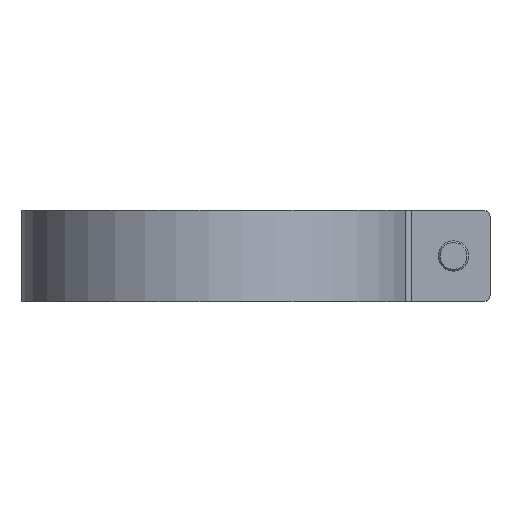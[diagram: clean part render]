
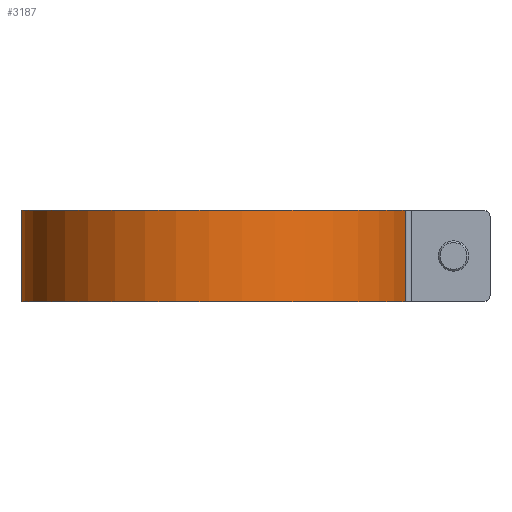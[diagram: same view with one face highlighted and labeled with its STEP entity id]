
A CAD part, front view. The second image highlights one B-rep face of the part: STEP entity #3187.
In plain terms, the highlighted cylindrical face has radius 32 mm (diameter 64 mm), a partial arc.
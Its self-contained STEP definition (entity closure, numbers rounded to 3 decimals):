
#449 = ORIENTED_EDGE ( 'NONE', *, *, #8991, .T. ) ;
#2098 = EDGE_CURVE ( 'NONE', #6629, #3719, #7569, .T. ) ;
#2185 = EDGE_CURVE ( 'NONE', #16841, #16878, #9968, .T. ) ;
#2439 = CYLINDRICAL_SURFACE ( 'NONE', #11034, 32. ) ;
#3187 = ADVANCED_FACE ( 'NONE', ( #3330 ), #2439, .T. ) ;
#3330 = FACE_OUTER_BOUND ( 'NONE', #10798, .T. ) ;
#3446 = AXIS2_PLACEMENT_3D ( 'NONE', #4934, #14785, #6342 ) ;
#3719 = VERTEX_POINT ( 'NONE', #17600 ) ;
#4272 = VECTOR ( 'NONE', #10415, 1000. ) ;
#4934 = CARTESIAN_POINT ( 'NONE',  ( 0., 0., 0. ) ) ;
#6292 = ORIENTED_EDGE ( 'NONE', *, *, #12976, .F. ) ;
#6342 = DIRECTION ( 'NONE',  ( 1., 0., 0. ) ) ;
#6408 = CARTESIAN_POINT ( 'NONE',  ( -32., 0., 15. ) ) ;
#6430 = DIRECTION ( 'NONE',  ( 0., 0., -1. ) ) ;
#6629 = VERTEX_POINT ( 'NONE', #18290 ) ;
#7569 = LINE ( 'NONE', #9024, #4272 ) ;
#7922 = CARTESIAN_POINT ( 'NONE',  ( 0., 0., 15. ) ) ;
#8329 = DIRECTION ( 'NONE',  ( 0., 0., 1. ) ) ;
#8991 = EDGE_CURVE ( 'NONE', #16878, #6629, #14487, .T. ) ;
#9024 = CARTESIAN_POINT ( 'NONE',  ( 31.045, -7.758, 15. ) ) ;
#9329 = DIRECTION ( 'NONE',  ( -1., 0., 0. ) ) ;
#9534 = VECTOR ( 'NONE', #6430, 1000. ) ;
#9856 = AXIS2_PLACEMENT_3D ( 'NONE', #16783, #8329, #18196 ) ;
#9951 = ORIENTED_EDGE ( 'NONE', *, *, #2098, .T. ) ;
#9968 = LINE ( 'NONE', #12031, #9534 ) ;
#10415 = DIRECTION ( 'NONE',  ( 0., 0., 1. ) ) ;
#10798 = EDGE_LOOP ( 'NONE', ( #6292, #14280, #449, #9951 ) ) ;
#11034 = AXIS2_PLACEMENT_3D ( 'NONE', #7922, #16368, #9329 ) ;
#11664 = CIRCLE ( 'NONE', #9856, 32. ) ;
#12031 = CARTESIAN_POINT ( 'NONE',  ( -32., 0., 15. ) ) ;
#12113 = CARTESIAN_POINT ( 'NONE',  ( -32., 0., 0. ) ) ;
#12976 = EDGE_CURVE ( 'NONE', #16841, #3719, #11664, .T. ) ;
#14280 = ORIENTED_EDGE ( 'NONE', *, *, #2185, .T. ) ;
#14487 = CIRCLE ( 'NONE', #3446, 32. ) ;
#14785 = DIRECTION ( 'NONE',  ( 0., 0., 1. ) ) ;
#16368 = DIRECTION ( 'NONE',  ( 0., 0., -1. ) ) ;
#16783 = CARTESIAN_POINT ( 'NONE',  ( 0., 0., 15. ) ) ;
#16841 = VERTEX_POINT ( 'NONE', #6408 ) ;
#16878 = VERTEX_POINT ( 'NONE', #12113 ) ;
#17600 = CARTESIAN_POINT ( 'NONE',  ( 31.045, -7.758, 15. ) ) ;
#18196 = DIRECTION ( 'NONE',  ( 1., 0., 0. ) ) ;
#18290 = CARTESIAN_POINT ( 'NONE',  ( 31.045, -7.758, 0. ) ) ;
